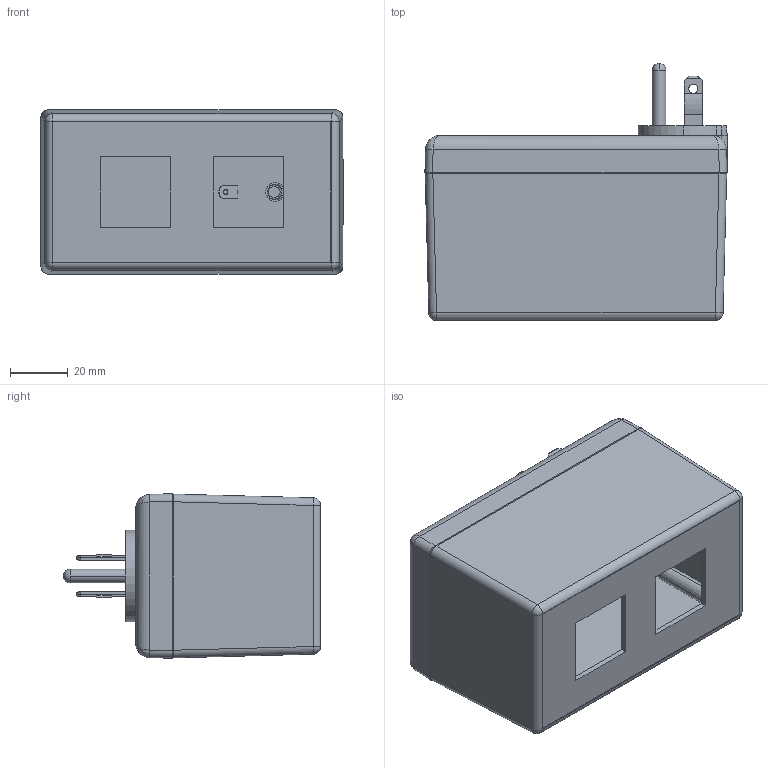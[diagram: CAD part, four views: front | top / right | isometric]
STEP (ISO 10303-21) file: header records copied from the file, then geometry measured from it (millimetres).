
FILE_DESCRIPTION (( 'STEP AP214' ), '1' );
FILE_NAME ('PM2425R23XNT.STEP', '2010-07-15T14:18:22', ( '' ), ( '' ), 'SwSTEP 2.0', 'SolidWorks 2010', '' );
FILE_SCHEMA (( 'AUTOMOTIVE_DESIGN' ));
Length unit declared in the file: inch
Products named in the file (10): TS-2420B AND PM2420_PM2420R2; B2405 ASS''Y_B24053XNT; MPB2405_MPB24053NT; GND-PIN; BLADES; WELD DISC-PS-BK; GND-TAB; SCREWS-HL1-BR; B2405-PCB; PM2425R23XNT
Assembly tree (13 placements, depth 3):
  PM2425R23XNT
    B2405 ASS''Y_B24053XNT
      BLADES  x2
      MPB2405_MPB24053NT
      GND-TAB
      GND-PIN
      WELD DISC-PS-BK
    TS-2420B AND PM2420_PM2420R2
    SCREWS-HL1-BR  x4
    B2405-PCB
Bounding box: 104.6 x 89.03 x 56.95 mm (x, y, z)
Volume: 85514.3 mm3; surface area: 81223.8 mm2
Topology: 12 solids, 12 shells, 968 faces, 2692 edges, 1759 vertices
Faces by surface type: cylinder 522, plane 315, cone 77, bspline 28, sphere 14, torus 12
Entity records: 21073 total; most frequent: CARTESIAN_POINT 6629, ORIENTED_EDGE 3102, DIRECTION 2789, EDGE_CURVE 1551, VERTEX_POINT 1009, AXIS2_PLACEMENT_3D 994, LINE 801, VECTOR 801
